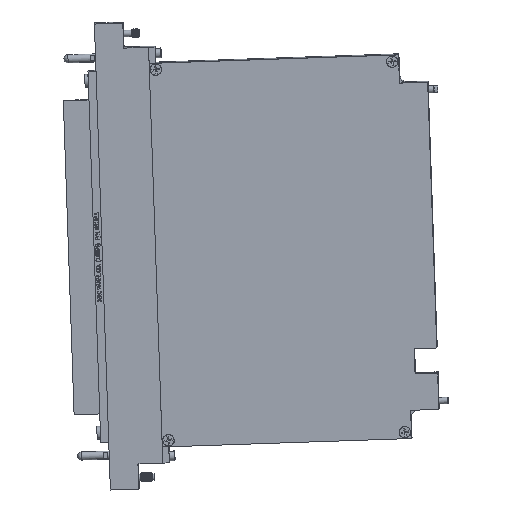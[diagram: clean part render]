
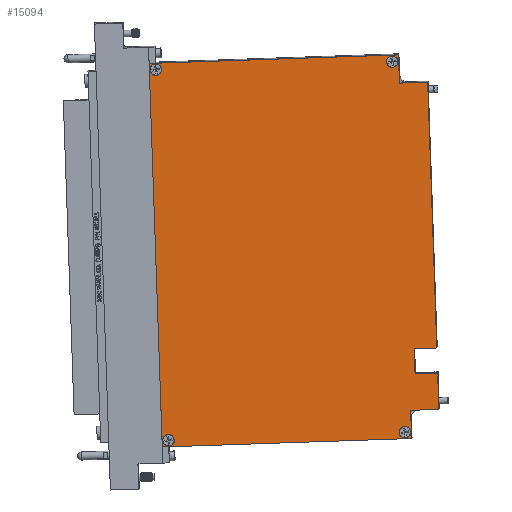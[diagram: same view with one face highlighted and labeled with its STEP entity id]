
A CAD part, front view. The second image highlights one B-rep face of the part: STEP entity #15094.
In plain terms, the highlighted planar face has unit normal (-0.008, -1, -0.021).
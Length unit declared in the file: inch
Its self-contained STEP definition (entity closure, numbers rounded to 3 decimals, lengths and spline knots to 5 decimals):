
#14482=CARTESIAN_POINT('',(4.88399,-0.40421,-1.42997));
#14483=VERTEX_POINT('',#14482);
#14490=CARTESIAN_POINT('',(4.89725,-0.39603,-1.81666));
#14491=VERTEX_POINT('',#14490);
#14492=CARTESIAN_POINT('',(4.89725,-0.39603,-1.81666));
#14493=DIRECTION('',(-0.034,-0.021,0.999));
#14494=VECTOR('',#14493,0.387);
#14495=LINE('',#14492,#14494);
#14496=EDGE_CURVE('',#14491,#14483,#14495,.T.);
#14521=CARTESIAN_POINT('',(5.24703,-0.39921,-1.80474));
#14522=VERTEX_POINT('',#14521);
#14523=CARTESIAN_POINT('',(5.24703,-0.39921,-1.80474));
#14524=DIRECTION('',(-0.999,0.009,-0.034));
#14525=VECTOR('',#14524,0.35);
#14526=LINE('',#14523,#14525);
#14527=EDGE_CURVE('',#14522,#14491,#14526,.T.);
#14551=CARTESIAN_POINT('',(5.23377,-0.40739,-1.41805));
#14552=VERTEX_POINT('',#14551);
#14559=CARTESIAN_POINT('',(4.88399,-0.40421,-1.42997));
#14560=DIRECTION('',(0.999,-0.009,0.034));
#14561=VECTOR('',#14560,0.35);
#14562=LINE('',#14559,#14561);
#14563=EDGE_CURVE('',#14483,#14552,#14562,.T.);
#14700=CARTESIAN_POINT('',(5.26633,-0.3873,-2.36774));
#14701=VERTEX_POINT('',#14700);
#14702=CARTESIAN_POINT('',(5.26633,-0.3873,-2.36774));
#14703=DIRECTION('',(-0.034,-0.021,0.999));
#14704=VECTOR('',#14703,0.56346);
#14705=LINE('',#14702,#14704);
#14706=EDGE_CURVE('',#14701,#14522,#14705,.T.);
#14723=CARTESIAN_POINT('',(4.65075,-0.37448,-2.72538));
#14724=VERTEX_POINT('',#14723);
#14725=CARTESIAN_POINT('',(4.74069,-0.3753,-2.72232));
#14726=DIRECTION('',(0.008,1.,0.021));
#14727=DIRECTION('',(-0.999,0.009,-0.034));
#14728=AXIS2_PLACEMENT_3D('',#14725,#14726,#14727);
#14729=CIRCLE('',#14728,0.09);
#14730=EDGE_CURVE('',#14724,#14724,#14729,.T.);
#14763=CARTESIAN_POINT('',(0.99252,-0.3412,-2.85008));
#14764=VERTEX_POINT('',#14763);
#14765=CARTESIAN_POINT('',(1.08247,-0.34202,-2.84701));
#14766=DIRECTION('',(0.008,1.,0.021));
#14767=DIRECTION('',(-0.999,0.009,-0.034));
#14768=AXIS2_PLACEMENT_3D('',#14765,#14766,#14767);
#14769=CIRCLE('',#14768,0.09);
#14770=EDGE_CURVE('',#14764,#14764,#14769,.T.);
#14803=CARTESIAN_POINT('',(0.79592,-0.4625,2.88527));
#14804=VERTEX_POINT('',#14803);
#14805=CARTESIAN_POINT('',(0.88586,-0.46332,2.88834));
#14806=DIRECTION('',(0.008,1.,0.021));
#14807=DIRECTION('',(-0.999,0.009,-0.034));
#14808=AXIS2_PLACEMENT_3D('',#14805,#14806,#14807);
#14809=CIRCLE('',#14808,0.09);
#14810=EDGE_CURVE('',#14804,#14804,#14809,.T.);
#14843=CARTESIAN_POINT('',(4.45414,-0.49579,3.00997));
#14844=VERTEX_POINT('',#14843);
#14845=CARTESIAN_POINT('',(4.54409,-0.49661,3.01303));
#14846=DIRECTION('',(0.008,1.,0.021));
#14847=DIRECTION('',(-0.999,0.009,-0.034));
#14848=AXIS2_PLACEMENT_3D('',#14845,#14846,#14847);
#14849=CIRCLE('',#14848,0.09);
#14850=EDGE_CURVE('',#14844,#14844,#14849,.T.);
#14885=CARTESIAN_POINT('',(5.09278,-0.49438,2.69508));
#14886=VERTEX_POINT('',#14885);
#14893=CARTESIAN_POINT('',(5.23377,-0.40739,-1.41805));
#14894=DIRECTION('',(-0.034,-0.021,0.999));
#14895=VECTOR('',#14894,4.11646);
#14896=LINE('',#14893,#14895);
#14897=EDGE_CURVE('',#14552,#14886,#14896,.T.);
#14908=CARTESIAN_POINT('',(4.65555,-0.4904,2.68018));
#14909=VERTEX_POINT('',#14908);
#14916=CARTESIAN_POINT('',(5.09278,-0.49438,2.69508));
#14917=DIRECTION('',(-0.999,0.009,-0.034));
#14918=VECTOR('',#14917,0.4375);
#14919=LINE('',#14916,#14918);
#14920=EDGE_CURVE('',#14886,#14909,#14919,.T.);
#14932=CARTESIAN_POINT('',(4.6406,-0.49963,3.11636));
#14933=VERTEX_POINT('',#14932);
#14940=CARTESIAN_POINT('',(4.65555,-0.4904,2.68018));
#14941=DIRECTION('',(-0.034,-0.021,0.999));
#14942=VECTOR('',#14941,0.43654);
#14943=LINE('',#14940,#14942);
#14944=EDGE_CURVE('',#14909,#14933,#14943,.T.);
#14956=CARTESIAN_POINT('',(0.7825,-0.46453,2.98485));
#14957=VERTEX_POINT('',#14956);
#14964=CARTESIAN_POINT('',(4.6406,-0.49963,3.11636));
#14965=DIRECTION('',(-0.999,0.009,-0.034));
#14966=VECTOR('',#14965,3.8605);
#14967=LINE('',#14964,#14966);
#14968=EDGE_CURVE('',#14933,#14957,#14967,.T.);
#14980=CARTESIAN_POINT('',(0.98595,-0.339,-2.95034));
#14981=VERTEX_POINT('',#14980);
#14988=CARTESIAN_POINT('',(0.7825,-0.46453,2.98485));
#14989=DIRECTION('',(0.034,0.021,-0.999));
#14990=VECTOR('',#14989,5.94);
#14991=LINE('',#14988,#14990);
#14992=EDGE_CURVE('',#14957,#14981,#14991,.T.);
#15004=CARTESIAN_POINT('',(4.84405,-0.3741,-2.81883));
#15005=VERTEX_POINT('',#15004);
#15012=CARTESIAN_POINT('',(0.98595,-0.339,-2.95034));
#15013=DIRECTION('',(0.999,-0.009,0.034));
#15014=VECTOR('',#15013,3.8605);
#15015=LINE('',#15012,#15014);
#15016=EDGE_CURVE('',#14981,#15005,#15015,.T.);
#15028=CARTESIAN_POINT('',(4.8291,-0.38332,-2.38265));
#15029=VERTEX_POINT('',#15028);
#15036=CARTESIAN_POINT('',(4.84405,-0.3741,-2.81883));
#15037=DIRECTION('',(-0.034,-0.021,0.999));
#15038=VECTOR('',#15037,0.43654);
#15039=LINE('',#15036,#15038);
#15040=EDGE_CURVE('',#15005,#15029,#15039,.T.);
#15053=CARTESIAN_POINT('',(4.8291,-0.38332,-2.38265));
#15054=DIRECTION('',(0.999,-0.009,0.034));
#15055=VECTOR('',#15054,0.4375);
#15056=LINE('',#15053,#15055);
#15057=EDGE_CURVE('',#15029,#14701,#15056,.T.);
#15063=CARTESIAN_POINT('',(3.01325,-0.42113,0.08983));
#15064=DIRECTION('',(0.008,1.,0.021));
#15065=DIRECTION('',(-0.999,0.009,-0.034));
#15066=AXIS2_PLACEMENT_3D('',#15063,#15064,#15065);
#15067=PLANE('',#15066);
#15068=ORIENTED_EDGE('',*,*,#14563,.T.);
#15069=ORIENTED_EDGE('',*,*,#14897,.T.);
#15070=ORIENTED_EDGE('',*,*,#14920,.T.);
#15071=ORIENTED_EDGE('',*,*,#14944,.T.);
#15072=ORIENTED_EDGE('',*,*,#14968,.T.);
#15073=ORIENTED_EDGE('',*,*,#14992,.T.);
#15074=ORIENTED_EDGE('',*,*,#15016,.T.);
#15075=ORIENTED_EDGE('',*,*,#15040,.T.);
#15076=ORIENTED_EDGE('',*,*,#15057,.T.);
#15077=ORIENTED_EDGE('',*,*,#14706,.T.);
#15078=ORIENTED_EDGE('',*,*,#14527,.T.);
#15079=ORIENTED_EDGE('',*,*,#14496,.T.);
#15080=EDGE_LOOP('',(#15068,#15069,#15070,#15071,#15072,#15073,#15074,#15075,#15076,#15077,#15078,#15079));
#15081=FACE_OUTER_BOUND('',#15080,.T.);
#15082=ORIENTED_EDGE('',*,*,#14730,.T.);
#15083=EDGE_LOOP('',(#15082));
#15084=FACE_BOUND('',#15083,.T.);
#15085=ORIENTED_EDGE('',*,*,#14770,.T.);
#15086=EDGE_LOOP('',(#15085));
#15087=FACE_BOUND('',#15086,.T.);
#15088=ORIENTED_EDGE('',*,*,#14810,.T.);
#15089=EDGE_LOOP('',(#15088));
#15090=FACE_BOUND('',#15089,.T.);
#15091=ORIENTED_EDGE('',*,*,#14850,.T.);
#15092=EDGE_LOOP('',(#15091));
#15093=FACE_BOUND('',#15092,.T.);
#15094=ADVANCED_FACE('',(#15081,#15084,#15087,#15090,#15093),#15067,.F.);
